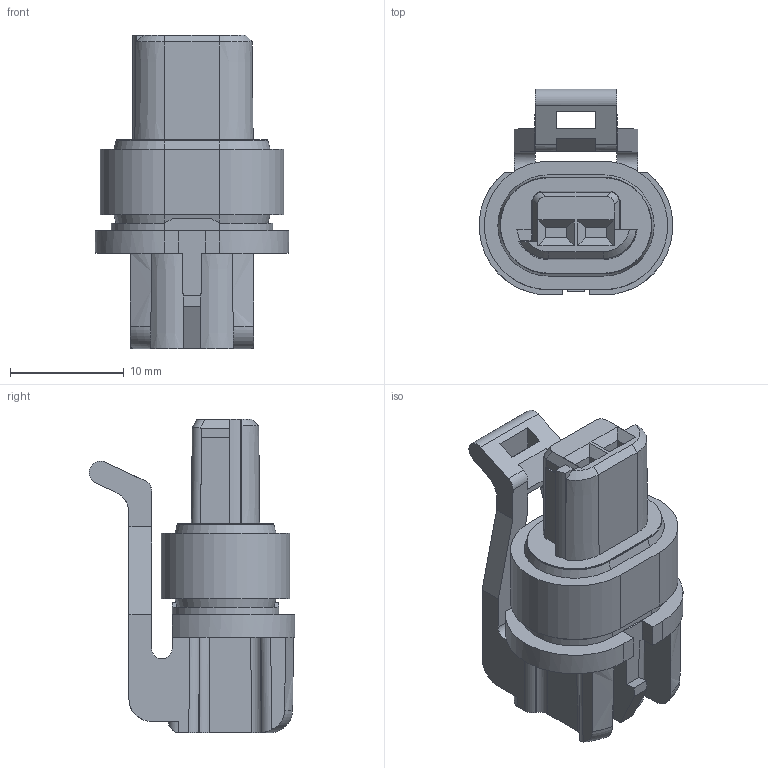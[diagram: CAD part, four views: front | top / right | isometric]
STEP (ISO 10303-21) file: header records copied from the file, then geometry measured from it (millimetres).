
FILE_DESCRIPTION(/* description */ (''),/* implementation_level */ '2;1');
FILE_NAME(/* name */ '15449028-ENV11_03-CONN.stp',/* time_stamp */ '2021-09-07T16:06:02+06:00',/* author */ (''),/* organization */ (''),/* preprocessor_version */ 'ST-DEVELOPER v16',/* originating_system */ 'SIEMENS PLM Software NX 11.0',/* authorisation */ '');
FILE_SCHEMA (('AP203_CONFIGURATION_CONTROLLED_3D_DESIGN_OF_MECHANICAL_PARTS_AND_ASSEMBLIES_MIM_LF { 1 0 10303 403 2 1 2}'));
Length unit declared in the file: millimetre
Products named in the file (1): hjcv2F283C201z21
Bounding box: 17.03 x 18.1 x 27.6 mm (x, y, z)
Volume: 2738.7 mm3; surface area: 2136.8 mm2
Topology: 1 solids, 1 shells, 180 faces, 497 edges, 322 vertices
Faces by surface type: plane 128, cylinder 34, cone 16, torus 2
Entity records: 5997 total; most frequent: CARTESIAN_POINT 1284, ORIENTED_EDGE 994, DIRECTION 921, EDGE_CURVE 497, LINE 363, VECTOR 363, VERTEX_POINT 322, AXIS2_PLACEMENT_3D 279
